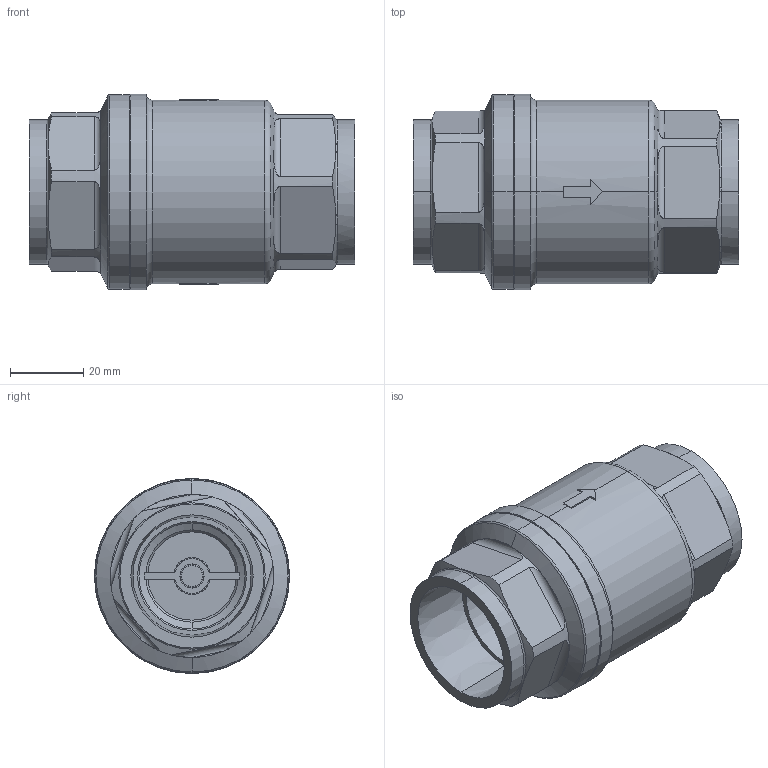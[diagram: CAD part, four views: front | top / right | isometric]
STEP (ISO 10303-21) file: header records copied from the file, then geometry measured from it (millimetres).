
FILE_DESCRIPTION (( 'STEP AP203' ), '1' );
FILE_NAME ('SCI-8.STEP', '2022-09-15T18:45:05', ( '' ), ( '' ), 'SwSTEP 2.0', 'SolidWorks 2021', '' );
FILE_SCHEMA (( 'CONFIG_CONTROL_DESIGN' ));
Length unit declared in the file: inch
Products named in the file (5): SCI-8-POPPET; SCI-8-SEAT; SCI-8; SCI-8-BODY; SCI-8-SPRING
Assembly tree (4 placements, depth 2):
  SCI-8
    SCI-8-BODY
    SCI-8-SEAT
    SCI-8-POPPET
    SCI-8-SPRING
Bounding box: 88.9 x 53.34 x 53.34 mm (x, y, z)
Volume: 75038.7 mm3; surface area: 30773.5 mm2
Topology: 4 solids, 4 shells, 224 faces, 530 edges, 324 vertices
Faces by surface type: cylinder 84, plane 69, cone 32, torus 31, bspline 8
Entity records: 10504 total; most frequent: CARTESIAN_POINT 4764, DIRECTION 1170, ORIENTED_EDGE 1058, EDGE_CURVE 529, AXIS2_PLACEMENT_3D 489, VERTEX_POINT 322, CIRCLE 266, EDGE_LOOP 245
